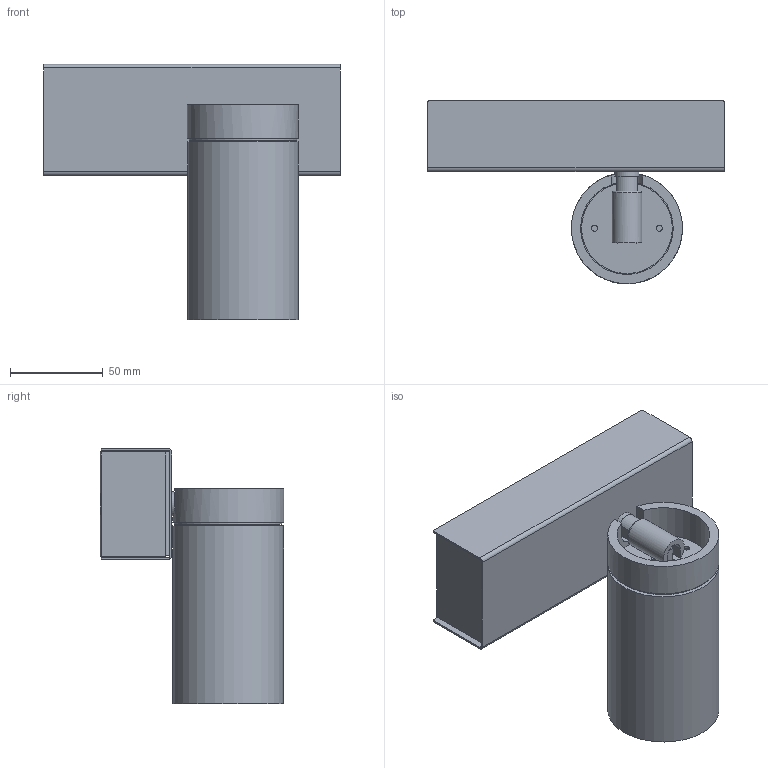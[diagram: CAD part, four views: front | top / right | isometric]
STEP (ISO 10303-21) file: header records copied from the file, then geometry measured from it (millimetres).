
FILE_DESCRIPTION(/* description */ (''),/* implementation_level */ '2;1');
FILE_NAME(/* name */ 'DOT P ENDLESS CASAMBI.stp',/* time_stamp */ '2023-02-17T12:17:16+01:00',/* author */ ('n.bisotti'),/* organization */ (''),/* preprocessor_version */ 'ST-DEVELOPER v19.2',/* originating_system */ 'Autodesk Inventor 2023',/* authorisation */ '');
FILE_SCHEMA (('AUTOMOTIVE_DESIGN { 1 0 10303 214 3 1 1 }'));
Length unit declared in the file: millimetre
Products named in the file (1): Parte4
Bounding box: 160 x 99.1 x 137.9 mm (x, y, z)
Volume: 189779 mm3; surface area: 158576.6 mm2
Topology: 12 solids, 12 shells, 232 faces, 537 edges, 337 vertices
Faces by surface type: plane 125, cylinder 95, cone 8, torus 2, sphere 2
Full cylindrical faces by diameter (mm): 1.6 x1, 2.459 x3, 3.25 x3, 6.8 x1, 8.917 x2, 13 x1, 16 x1, 48 x1, 49 x1, 50 x1, 51.9 x1, 53 x1, 54 x1, 54.5 x2, 55 x1, 55.835 x1, 57.5 x1, 58 x3, 60 x2
Entity records: 7053 total; most frequent: CARTESIAN_POINT 1243, DIRECTION 1190, ORIENTED_EDGE 1070, EDGE_CURVE 535, AXIS2_PLACEMENT_3D 440, VERTEX_POINT 337, LINE 310, VECTOR 310
